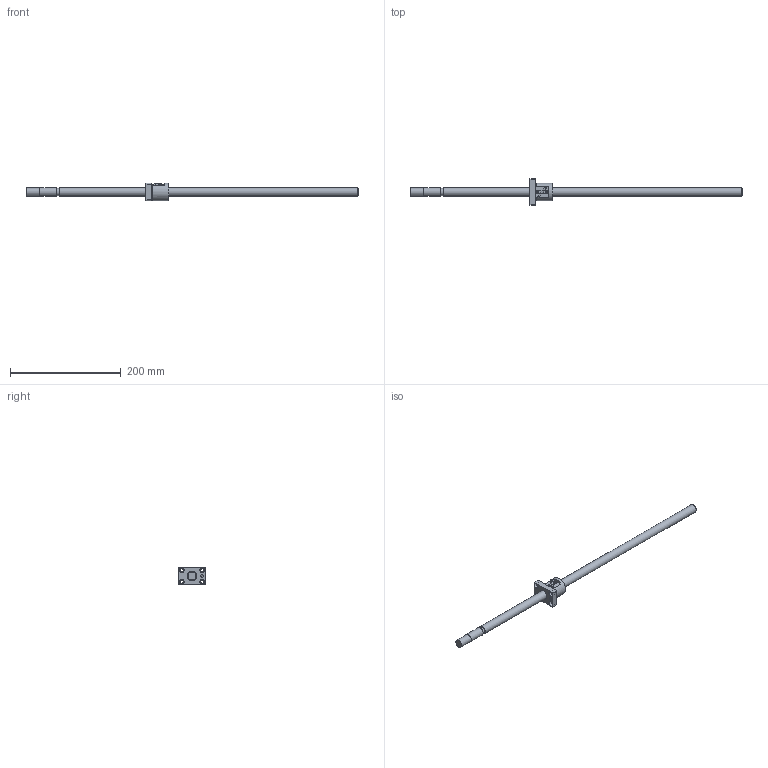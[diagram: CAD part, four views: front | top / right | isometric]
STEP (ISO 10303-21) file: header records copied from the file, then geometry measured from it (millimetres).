
FILE_DESCRIPTION (( 'STEP AP214' ), '1' );
FILE_NAME ('KBS(C)1504-600.STEP', '2021-07-05T02:08:23', ( '' ), ( '' ), 'SwSTEP 2.0', 'SolidWorks 2019', '' );
FILE_SCHEMA (( 'AUTOMOTIVE_DESIGN' ));
Length unit declared in the file: millimetre
Products named in the file (3): KBS(C)1504-600; KBS1504; KBS1504-600
Assembly tree (2 placements, depth 2):
  KBS(C)1504-600
    KBS1504-600
    KBS1504
Bounding box: 600 x 48 x 32 mm (x, y, z)
Volume: 134748 mm3; surface area: 39313.4 mm2
Topology: 2 solids, 2 shells, 103 faces, 259 edges, 171 vertices
Faces by surface type: plane 55, cylinder 40, cone 4, torus 4
Full cylindrical faces by diameter (mm): 2.9 x1, 5 x1, 5.5 x4, 5.6 x2, 9.5 x4, 13.1 x1, 14.5 x1, 15 x3, 17 x2, 32 x1
Entity records: 3303 total; most frequent: CARTESIAN_POINT 868, DIRECTION 464, ORIENTED_EDGE 448, EDGE_CURVE 224, AXIS2_PLACEMENT_3D 176, VERTEX_POINT 164, EDGE_LOOP 158, FACE_OUTER_BOUND 127
